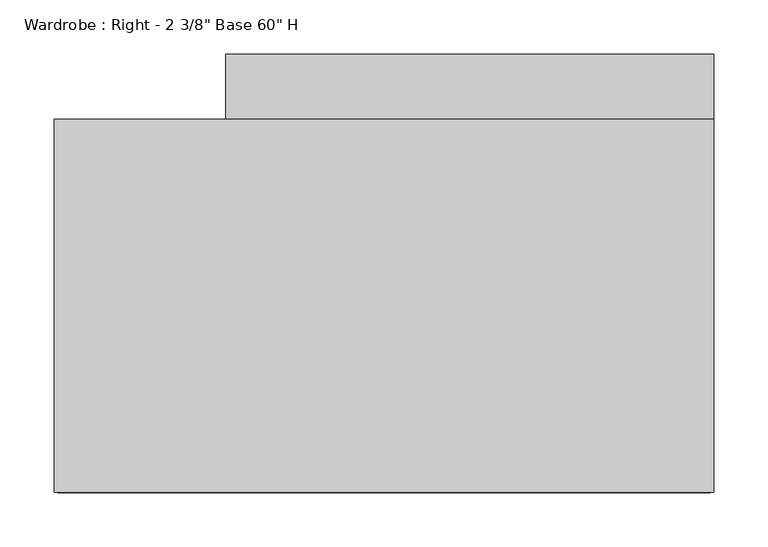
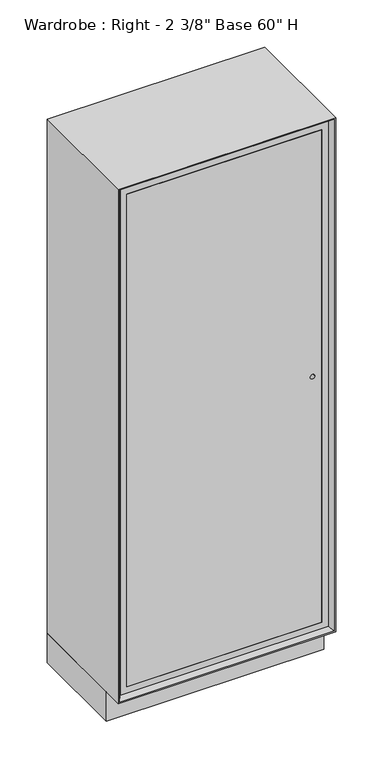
"""IFC4 building model written with IfcOpenShell, lengths in millimetres: furniture geometry."""

from ifc_helpers import new_model, si_unit, point, frame, frame_2d, origin, origin_with_axes, place, context, project, spatial, polyline, circle_curve, trimmed, segment, composite_curve, outline, extrude, faceted_brep, source, transform, mapped, element, save


def furniture_7742d33f(model_context):
    return source(origin(), model_context, "Body", "SolidModel", [
        extrude(outline(polyline([(1579.5625, -273.05), (119.0625, -273.05), (119.0625, 273.05), (1579.5625, 273.05), (1579.5625, -273.05)]), holes=[composite_curve([segment(trimmed(circle_curve(frame_2d((855.6625, 247.65)), 6.35), [point((855.6625, 254.0))], [point((855.6625, 241.3))], True, "CARTESIAN"), True, "CONTINUOUS"), segment(trimmed(circle_curve(frame_2d((855.6625, 247.65)), 6.35), [point((855.6625, 241.3))], [point((855.6625, 254.0))], True, "CARTESIAN"), True, "CONTINUOUS")], self_intersect=False)]), frame((0.0, -392.1125, 0.0), z_axis=(0.0, 1.0, 0.0), x_axis=(0.0, 0.0, 1.0)), (0.0, 0.0, 1.0), 19.05),
        extrude(outline(polyline([(1598.6125, 292.1), (1598.6125, -292.1), (100.0125, -292.1), (100.0125, 292.1), (1598.6125, 292.1)]), holes=[polyline([(1579.5625, -273.05), (1579.5625, 273.05), (119.0625, 273.05), (119.0625, -273.05), (1579.5625, -273.05)])]), frame((0.0, -392.1125, 0.0), z_axis=(0.0, 1.0, 0.0), x_axis=(0.0, 0.0, 1.0)), (0.0, 0.0, 1.0), 331.7875),
        extrude(outline(polyline([(273.05, -60.325), (273.05, -79.375), (-273.05, -79.375), (-273.05, -60.325), (273.05, -60.325)])), frame((0.0, 0.0, 119.0625), z_axis=(0.0, 0.0, 1.0), x_axis=(1.0, 0.0, 0.0)), (0.0, 0.0, 1.0), 1460.5),
        faceted_brep([(292.1, -392.1125, 1598.6125), (292.1, -60.325, 1598.6125), (292.1, -60.325, 100.0125), (292.1, -392.1125, 100.0125), (301.625, -404.8125, 1608.1375), (301.625, -404.8125, 90.4875), (304.8, -60.325, 1611.3125), (304.8, -404.8125, 1611.3125), (304.8, -404.8125, 87.3125), (304.8, -60.325, 87.3125), (-292.1, -60.325, 100.0125), (-292.1, -392.1125, 100.0125), (-301.625, -404.8125, 90.4875), (-304.8, -404.8125, 87.3125), (-304.8, -60.325, 87.3125), (-292.1, -60.325, 1598.6125), (-292.1, -392.1125, 1598.6125), (-301.625, -404.8125, 1608.1375), (-304.8, -404.8125, 1611.3125), (-304.8, -60.325, 1611.3125)], [[[0, 1, 2, 3]], [[4, 0, 3, 5]], [[6, 7, 8, 9]], [[3, 2, 10, 11]], [[5, 3, 11, 12]], [[9, 8, 13, 14]], [[11, 10, 15, 16]], [[12, 11, 16, 17]], [[14, 13, 18, 19]], [[9, 14, 19, 6], [1, 15, 10, 2]], [[16, 15, 1, 0]], [[17, 16, 0, 4]], [[7, 18, 13, 8], [5, 12, 17, 4]], [[19, 18, 7, 6]]]),
        extrude(outline(polyline([(304.8, -60.325), (304.8, -347.6625), (-304.8, -347.6625), (-304.8, -60.325), (304.8, -60.325)])), origin_with_axes(), (0.0, 0.0, 1.0), 87.3125),
        extrude(outline(polyline([(304.8, 0.0), (304.8, -60.325), (-146.2, -60.325), (-146.2, 0.0), (304.8, 0.0)])), origin_with_axes(), (0.0, 0.0, 1.0), 1460.5),
    ])


if __name__ == "__main__":
    model = new_model("IFC4")
    model_context = context("Model", 3, world=origin())
    ifc_project = project(units=[si_unit("LENGTHUNIT", "METRE", prefix="MILLI")], contexts=[model_context])
    site = spatial("IfcSite", under=ifc_project)
    building = spatial("IfcBuilding", under=site)
    placement = place(None, origin())
    furniture_shape = furniture_7742d33f(model_context)
    element("IfcFurniture", 1, ObjectType="Wardrobe : Right - 2 3/8\" Base 60\" H", at=placement, inside=building, context=model_context, shape_type="MappedRepresentation", body=[
        mapped(furniture_shape, transform((0.0, 0.0, 0.0), x_axis=(1.0, 0.0, 0.0), y_axis=(0.0, 1.0, 0.0), z_axis=(0.0, 0.0, 1.0))),
    ])
    save(model, "model.ifc")
